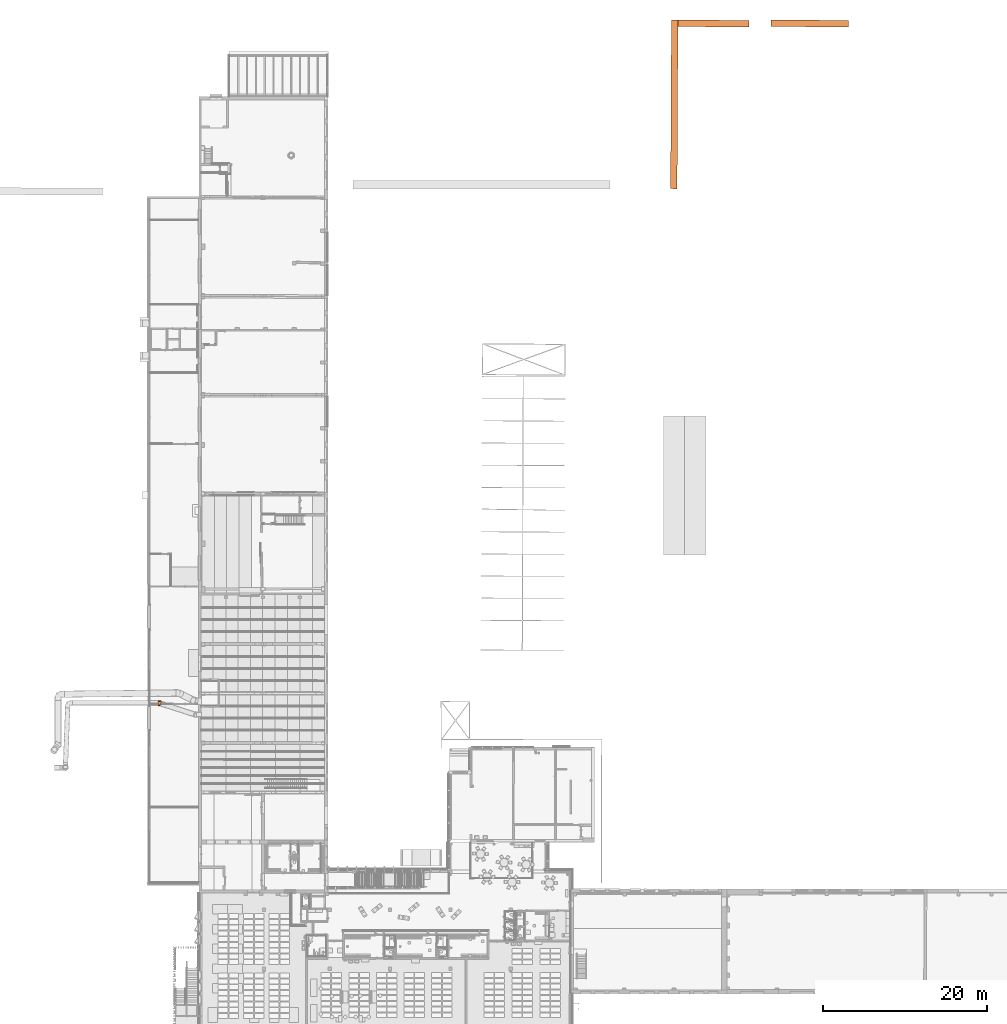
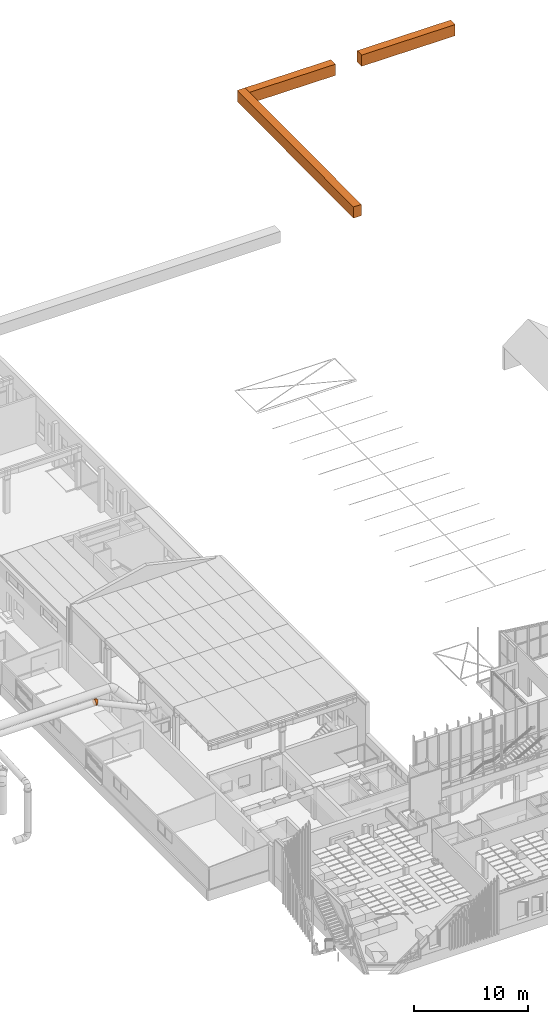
# One storey, part 301 of 301: 4 proxies.
"""IFC2X3 building model written with IfcOpenShell, lengths in millimetres."""

from ifc_helpers import new_model, entity, si_unit, converted_unit, derived_unit, money_unit, direction, frame, origin_with_axes, place, context, subcontext, project, spatial, open_shell, faceted_brep, surface_model, material, type_object, element, save


model = new_model("IFC2X3")

# Units and contexts
model_context = context("Model", 3, precision=0.01, world=origin_with_axes(), true_north=direction((0.0, 1.0)))
body_context = subcontext(model_context, "Body", "Model", "MODEL_VIEW")
ifc_project = project(units=[si_unit("LENGTHUNIT", "METRE", prefix="MILLI"), si_unit("AREAUNIT", "SQUARE_METRE"), si_unit("VOLUMEUNIT", "CUBIC_METRE"), converted_unit("PLANEANGLEUNIT", "DEGREE", entity("IfcPlaneAngleMeasure", 0.0174532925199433), si_unit("PLANEANGLEUNIT", "RADIAN"), dimensions=[0, 0, 0, 0, 0, 0, 0]), money_unit("EUR"), converted_unit("TIMEUNIT", "Year", entity("IfcTimeMeasure", 31557600.0), si_unit("TIMEUNIT", "SECOND"), dimensions=[0, 0, 1, 0, 0, 0, 0]), si_unit("MASSUNIT", "GRAM", prefix="KILO"), si_unit("THERMODYNAMICTEMPERATUREUNIT", "DEGREE_CELSIUS"), si_unit("LUMINOUSINTENSITYUNIT", "LUMEN"), si_unit("ENERGYUNIT", "JOULE", prefix="MEGA"), derived_unit("THERMALCONDUCTANCEUNIT", [(si_unit("POWERUNIT", "WATT"), 1), (si_unit("LENGTHUNIT", "METRE"), -1), (si_unit("THERMODYNAMICTEMPERATUREUNIT", "KELVIN"), -1)]), derived_unit("SPECIFICHEATCAPACITYUNIT", [(si_unit("ENERGYUNIT", "JOULE"), 1), (si_unit("MASSUNIT", "GRAM", prefix="KILO"), -1), (si_unit("THERMODYNAMICTEMPERATUREUNIT", "KELVIN"), -1)]), derived_unit("MASSDENSITYUNIT", [(si_unit("MASSUNIT", "GRAM", prefix="KILO"), 1), (si_unit("VOLUMEUNIT", "CUBIC_METRE"), -1)])], contexts=[model_context])

# Site, building, storey
site_placement = place(None, frame((0.0, 0.0, 8650.0), z_axis=(0.0, 0.0, 1.0), x_axis=(1.0, 0.0, 0.0)))
site = spatial("IfcSite", under=ifc_project, at=site_placement, Name="43301:001:0844", CompositionType="ELEMENT")
building_placement = place(site_placement, origin_with_axes())
building = spatial("IfcBuilding", under=site, at=building_placement, Name="Kuressaare Ametikooli tuulikute mehaanikute õppekorpus", CompositionType="ELEMENT")
storey_placement = place(building_placement, origin_with_axes())
storey = spatial("IfcBuildingStorey", under=building, at=storey_placement, Name="1.korrus", CompositionType="ELEMENT", Elevation=0.0)

# Proxies
ifc_material = material(Name="GENEERILINE - KONSTRUKTRIOON")
building_element_proxy_type_1 = type_object("IfcBuildingElementProxyType", Name="GENEERILINE - KONSTRUKTRIOON 800", PredefinedType="NOTDEFINED")
proxy_1_placement = place(storey_placement, frame((154910.9312149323, 132024.4761521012, -1500.0), z_axis=(0.0, 0.0, 1.0), x_axis=(-0.9999865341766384, 0.005189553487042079, 0.0)))
element("IfcBuildingElementProxy", 1, at=proxy_1_placement, inside=storey, type_object=building_element_proxy_type_1, material=ifc_material, context=body_context, shape_type="Brep", body=[
    faceted_brep([(8637.958724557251, 799.999999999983, 0.0), (8637.958724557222, 0.0, 0.0), (0.0, 0.0, 0.0), (0.0, 800.0000000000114, 0.0), (8637.958724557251, 799.999999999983, 1200.0), (8637.958724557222, 0.0, 1200.0), (0.0, 0.0, 1200.0), (0.0, 800.0000000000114, 1200.0)], [[[0, 1, 2, 3]], [[1, 0, 4, 5]], [[1, 5, 6, 2]], [[7, 3, 2, 6]], [[4, 0, 3, 7]], [[5, 4, 7, 6]]]),
])
proxy_2_placement = place(storey_placement, frame((145473.0995802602, 132073.4549437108, -1500.0), z_axis=(0.0, 0.0, 1.0), x_axis=(-0.005189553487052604, -0.9999865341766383, 0.0)))
element("IfcBuildingElementProxy", 2, at=proxy_2_placement, inside=storey, type_object=building_element_proxy_type_1, material=ifc_material, context=body_context, shape_type="Brep", body=[
    faceted_brep([(0.0, 799.999999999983, 0.0), (20539.96209532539, 799.999999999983, 0.0), (20539.96209532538, 0.0, 0.0), (0.0, 0.0, 0.0), (0.0, 799.999999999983, 1200.0), (20539.96209532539, 799.999999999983, 1200.0), (20539.96209532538, 0.0, 1200.0), (0.0, 0.0, 1200.0)], [[[0, 1, 2, 3]], [[4, 5, 1, 0]], [[2, 1, 5, 6]], [[3, 2, 6, 7]], [[4, 0, 3, 7]], [[7, 6, 5, 4]]]),
])
proxy_3_placement = place(storey_placement, frame((167050.8426099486, 132024.4761521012, -1500.0), z_axis=(0.0, 0.0, 1.0), x_axis=(-0.9999865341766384, 0.005189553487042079, 0.0)))
element("IfcBuildingElementProxy", 3, at=proxy_3_placement, inside=storey, type_object=building_element_proxy_type_1, material=ifc_material, context=body_context, shape_type="Brep", body=[
    faceted_brep([(0.0, 800.0000000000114, 0.0), (9437.95872455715, 800.0000000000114, 0.0), (9437.958724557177, 0.0, 0.0), (0.0, 0.0, 0.0), (0.0, 800.0000000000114, 1200.0), (9437.95872455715, 800.0000000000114, 1200.0), (9437.958724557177, 0.0, 1200.0), (0.0, 0.0, 1200.0)], [[[0, 1, 2, 3]], [[4, 5, 1, 0]], [[2, 1, 5, 6]], [[3, 2, 6, 7]], [[4, 0, 3, 7]], [[7, 6, 5, 4]]]),
])
building_element_proxy_type_2 = type_object("IfcBuildingElementProxyType", Name="IfcBuildingElementProxy", PredefinedType="NOTDEFINED")
proxy_4_placement = place(storey_placement, frame((82989.79451391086, 48929.38613891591, 6478.555803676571), z_axis=(1.0, 0.0, 0.0), x_axis=(0.0, 1.0, 0.0)))
element("IfcBuildingElementProxy", 4, at=proxy_4_placement, inside=storey, type_object=building_element_proxy_type_2, context=body_context, shape_type="SurfaceModel", body=[
    surface_model("IfcShellBasedSurfaceModel", [(-220.1544247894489, -205.2633166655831, -0.008778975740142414), (-159.5267890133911, -255.2492967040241, -0.01091684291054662), (-159.5267890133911, -255.2513180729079, 47.25118908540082), (-220.1544247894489, -205.265315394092, 46.72396696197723), (-88.02766619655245, -287.8404589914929, -0.01231074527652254), (-88.02766619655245, -287.8425467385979, 48.80180014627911), (-160.8196612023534, -256.4574716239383, 64.32952750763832), (-221.3275016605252, -206.3597088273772, 62.21985585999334), (-265.7789003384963, -141.2889808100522, -0.006042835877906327), (-265.7789003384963, -141.291002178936, 47.25606309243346), (-10.52960340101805, -300.8157696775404, -0.01286569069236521), (-10.52960340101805, -300.8179630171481, 51.27012856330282), (-89.67176048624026, -289.376364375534, 70.51964582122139), (-164.6434647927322, -260.0233349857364, 80.68370473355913), (-224.7969981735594, -209.5951654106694, 77.05868309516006), (-267.0717725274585, -142.4971557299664, 64.33440151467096), (-293.2909830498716, -67.68603440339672, -0.002894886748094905), (-293.2909830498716, -67.68812215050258, 48.81121600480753), (67.68603446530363, -293.2909827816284, -0.01254386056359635), (67.68603446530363, -293.2933137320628, 54.48796183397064), (-12.73241136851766, -302.8730189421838, 80.36836446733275), (-94.53433986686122, -293.9109313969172, 91.31660442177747), (-178.50300512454, -272.9472764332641, 123.9802581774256), (-238.5013044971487, -222.3743520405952, 119.8702927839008), (-270.8955761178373, -146.0630190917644, 80.68857874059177), (-294.9350773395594, -69.22193978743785, 70.52906167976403), (-300.8157699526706, 10.52960339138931, 0.0004503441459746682), (-300.8157699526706, 10.52741005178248, 51.28344459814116), (141.2889809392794, -265.7789000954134, -0.01136718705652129), (141.2889809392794, -265.7813912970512, 58.23600993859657), (64.75509665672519, -296.0276606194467, 93.20450954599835), (-19.24744439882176, -308.9485709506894, 108.2327676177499), (-108.8490032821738, -307.2592724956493, 136.0349410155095), (-284.7551164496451, -158.9869605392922, 123.9851321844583), (-299.7976567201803, -73.75650680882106, 91.3260202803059), (-303.0185779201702, 8.47235412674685, 80.3816805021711), (-287.8404592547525, 88.02766611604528, 0.00376488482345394), (-287.8404592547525, 88.02533516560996, 54.50427057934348), (205.2633168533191, -220.1544245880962, -0.009415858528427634), (205.2633168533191, -220.157087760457, 62.25884959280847), (137.510117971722, -269.3067892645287, 108.1533189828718), (56.08654410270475, -304.1114633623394, 130.279385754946), (-34.28610408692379, -322.9720343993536, 155.2128345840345), (-314.112320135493, -87.10484790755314, 136.0443568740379), (-309.5336109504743, 2.396802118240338, 108.2460836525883), (-290.7713970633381, 85.2909882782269, 93.2208182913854), (-255.2492969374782, 159.5267888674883, 0.006822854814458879), (-255.2492969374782, 159.5242976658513, 58.25419998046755), (255.2492969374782, -159.5267888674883, -0.006822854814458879), (255.2492969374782, -159.529624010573, 66.28233092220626), (200.5745181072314, -224.5313881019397, 124.196056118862), (126.3337388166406, -279.7292495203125, 155.9540182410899), (40.10435410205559, -319.014763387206, 180.2069971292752), (-324.5722706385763, -11.626661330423, 155.2261506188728), (-299.4399496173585, 77.20718553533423, 130.2956945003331), (-259.0281599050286, 155.998899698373, 108.1715090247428), (-205.2633168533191, 220.1544245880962, 0.009415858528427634), (-205.2633168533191, 220.1517614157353, 62.27768130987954), (287.8404592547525, -88.02766611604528, -0.00376488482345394), (287.8404592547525, -88.03066151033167, 70.03226032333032), (249.6505624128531, -164.752826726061, 140.2394349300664), (186.7069095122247, -237.463537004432, 183.5069813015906), (109.2527844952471, -295.6571409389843, 209.3141177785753), (-315.4221396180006, 62.30388551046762, 180.2233058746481), (-270.20453906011, 145.5764394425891, 155.9722082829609), (-209.9521155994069, 215.7774610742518, 124.214887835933), (-141.2889809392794, 265.7789000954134, 0.01136718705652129), (-141.2889809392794, 265.7760649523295, 66.30052096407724), (300.8157699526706, -10.52960339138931, -0.0004503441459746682), (300.8157699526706, -10.53273639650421, 73.25308630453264), (281.3937995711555, -94.04491530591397, 155.1901256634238), (233.0917243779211, -180.1946642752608, 211.0605860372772), (168.4468358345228, -254.4909504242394, 240.5505943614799), (-287.2854933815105, 129.6485480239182, 209.3323078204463), (-223.8197241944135, 202.8453121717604, 183.5258130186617), (-146.8877154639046, 260.5528622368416, 140.2576249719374), (-67.68603446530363, 293.2909827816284, 0.01254386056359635), (-67.68603446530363, 293.2879873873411, 70.04856906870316), (293.2909830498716, 67.68603440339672, 0.002894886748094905), (293.2909830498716, 67.68279580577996, 75.72531489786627), (293.6409804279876, -17.22628115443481, 168.0292634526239), (262.3271349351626, -111.8254103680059, 236.7370998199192), (213.6525313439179, -198.3215996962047, 271.7877126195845), (-242.0797978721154, 185.817898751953, 240.5694260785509), (-163.4465534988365, 245.1110246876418, 211.0787760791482), (-74.13269414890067, 287.2737335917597, 155.2064344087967), (10.52960340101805, 300.8157696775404, 0.01286569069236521), (10.52960340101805, 300.8126366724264, 73.26640233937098), (265.7789003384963, 141.2889808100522, 0.006042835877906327), (265.7789003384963, 141.2856758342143, 77.28046781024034), (285.5574798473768, 60.46801275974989, 177.8818822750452), (272.4207962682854, -37.01502695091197, 258.786710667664), (241.7891775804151, -130.9769371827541, 300.8967145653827), (-182.8857465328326, 226.9840892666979, 271.8059026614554), (-93.1993587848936, 269.4932385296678, 236.753408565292), (3.354813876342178, 294.1190919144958, 168.0425794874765), (88.02766619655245, 287.8404589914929, 0.01231074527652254), (88.02766619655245, 287.8372203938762, 75.7347307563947), (220.1544247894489, 205.2633166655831, 0.008778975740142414), (220.1544247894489, 205.2599890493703, 77.81256394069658), (257.6941750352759, 133.7432287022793, 184.0765424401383), (262.6848420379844, 39.13828197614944, 275.7067740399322), (250.9393086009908, -57.04639034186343, 325.893869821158), (-113.7373161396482, 250.3417117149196, 300.9130233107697), (-17.8653702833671, 274.3303461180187, 258.8000267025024), (80.29416299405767, 280.6224373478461, 177.8912981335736), (159.5267890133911, 255.2492967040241, 0.01091684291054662), (159.5267890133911, 255.2459917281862, 77.28534181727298), (211.9499041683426, 197.6057817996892, 186.1910880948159), (233.7827614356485, 111.4447942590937, 286.3442155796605), (240.4793580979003, 18.4317962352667, 345.0756635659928), (-39.34685795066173, 254.2989827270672, 325.9071858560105), (57.42152518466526, 259.2927065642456, 275.7161898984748), (151.4420637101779, 247.7035445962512, 184.0814164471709), (187.6841834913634, 174.9769405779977, 289.9741112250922), (211.1221544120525, 90.31390886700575, 357.1348882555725), (35.21604124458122, 238.5862208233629, 345.0850794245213), (127.5306501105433, 225.4051101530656, 286.3490895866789), (164.8683424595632, 153.7013003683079, 361.2497276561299), (104.8700430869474, 204.2742247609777, 357.1397622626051)], [open_shell([[[0, 1, 2, 3]], [[1, 4, 5, 2]], [[3, 2, 6, 7]], [[8, 0, 3, 9]], [[4, 10, 11, 5]], [[2, 5, 12, 6]], [[7, 6, 13, 14]], [[9, 3, 7, 15]], [[16, 8, 9, 17]], [[10, 18, 19, 11]], [[5, 11, 20, 12]], [[6, 12, 21, 13]], [[14, 13, 22, 23]], [[15, 7, 14, 24]], [[17, 9, 15, 25]], [[26, 16, 17, 27]], [[18, 28, 29, 19]], [[11, 19, 30, 20]], [[12, 20, 31, 21]], [[13, 21, 32, 22]], [[24, 14, 23, 33]], [[25, 15, 24, 34]], [[27, 17, 25, 35]], [[36, 26, 27, 37]], [[28, 38, 39, 29]], [[19, 29, 40, 30]], [[20, 30, 41, 31]], [[21, 31, 42, 32]], [[34, 24, 33, 43]], [[35, 25, 34, 44]], [[37, 27, 35, 45]], [[46, 36, 37, 47]], [[38, 48, 49, 39]], [[29, 39, 50, 40]], [[30, 40, 51, 41]], [[31, 41, 52, 42]], [[44, 34, 43, 53]], [[45, 35, 44, 54]], [[47, 37, 45, 55]], [[56, 46, 47, 57]], [[48, 58, 59, 49]], [[39, 49, 60, 50]], [[40, 50, 61, 51]], [[41, 51, 62, 52]], [[54, 44, 53, 63]], [[55, 45, 54, 64]], [[57, 47, 55, 65]], [[66, 56, 57, 67]], [[58, 68, 69, 59]], [[49, 59, 70, 60]], [[50, 60, 71, 61]], [[51, 61, 72, 62]], [[64, 54, 63, 73]], [[65, 55, 64, 74]], [[67, 57, 65, 75]], [[76, 66, 67, 77]], [[68, 78, 79, 69]], [[59, 69, 80, 70]], [[60, 70, 81, 71]], [[61, 71, 82, 72]], [[74, 64, 73, 83]], [[75, 65, 74, 84]], [[77, 67, 75, 85]], [[86, 76, 77, 87]], [[78, 88, 89, 79]], [[69, 79, 90, 80]], [[70, 80, 91, 81]], [[71, 81, 92, 82]], [[84, 74, 83, 93]], [[85, 75, 84, 94]], [[87, 77, 85, 95]], [[96, 86, 87, 97]], [[88, 98, 99, 89]], [[79, 89, 100, 90]], [[80, 90, 101, 91]], [[81, 91, 102, 92]], [[94, 84, 93, 103]], [[95, 85, 94, 104]], [[97, 87, 95, 105]], [[106, 96, 97, 107]], [[98, 106, 107, 99]], [[89, 99, 108, 100]], [[90, 100, 109, 101]], [[91, 101, 110, 102]], [[104, 94, 103, 111]], [[105, 95, 104, 112]], [[107, 97, 105, 113]], [[99, 107, 113, 108]], [[100, 108, 114, 109]], [[101, 109, 115, 110]], [[112, 104, 111, 116]], [[113, 105, 112, 117]], [[108, 113, 117, 114]], [[109, 114, 118, 115]], [[117, 112, 116, 119]], [[114, 117, 119, 118]]])]),
])

save(model, "model.ifc")
